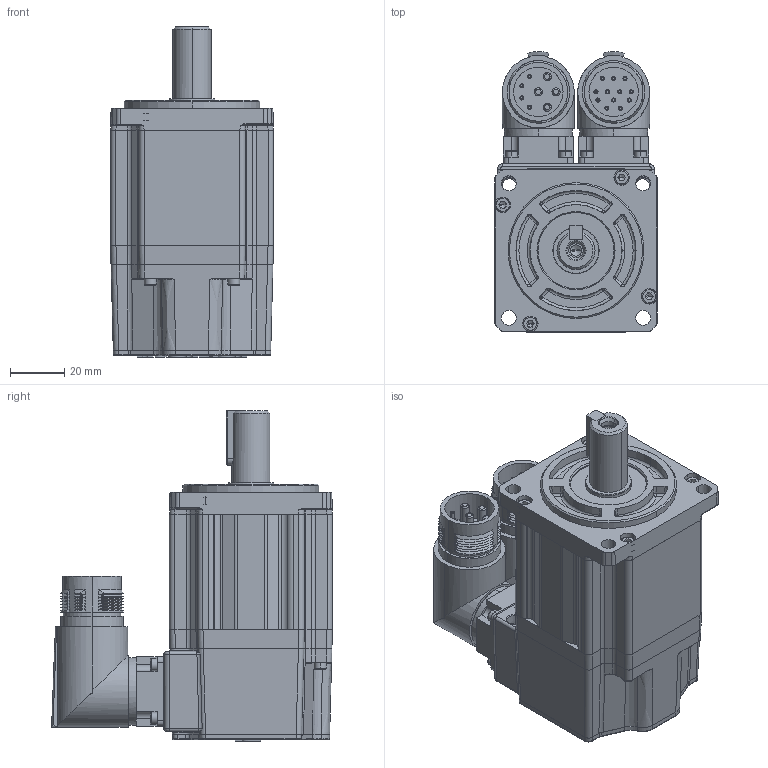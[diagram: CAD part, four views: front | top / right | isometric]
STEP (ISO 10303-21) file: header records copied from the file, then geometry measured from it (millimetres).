
FILE_DESCRIPTION (( 'STEP AP203' ), '1' );
FILE_NAME ('MC20-060-3L30-N201-0¡õPK-NNNN.STEP', '2025-05-04T11:11:22', ( '' ), ( '' ), 'SwSTEP 2.0', 'SolidWorks 2014', '' );
FILE_SCHEMA (( 'CONFIG_CONTROL_DESIGN' ));
Length unit declared in the file: millimetre
Products named in the file (1): MC20-060-3L30-N201-0¡õPK-NNNN
Bounding box: 60 x 103.37 x 121.5 mm (x, y, z)
Volume: 352559.4 mm3; surface area: 87712.5 mm2
Topology: 24 solids, 24 shells, 1882 faces, 4478 edges, 2715 vertices
Faces by surface type: plane 755, cylinder 516, cone 334, bspline 131, torus 126, sphere 20
Entity records: 56424 total; most frequent: CARTESIAN_POINT 13827, DIRECTION 8928, ORIENTED_EDGE 8824, EDGE_CURVE 4412, AXIS2_PLACEMENT_3D 3393, VERTEX_POINT 2715, VECTOR 2142, LINE 2142
